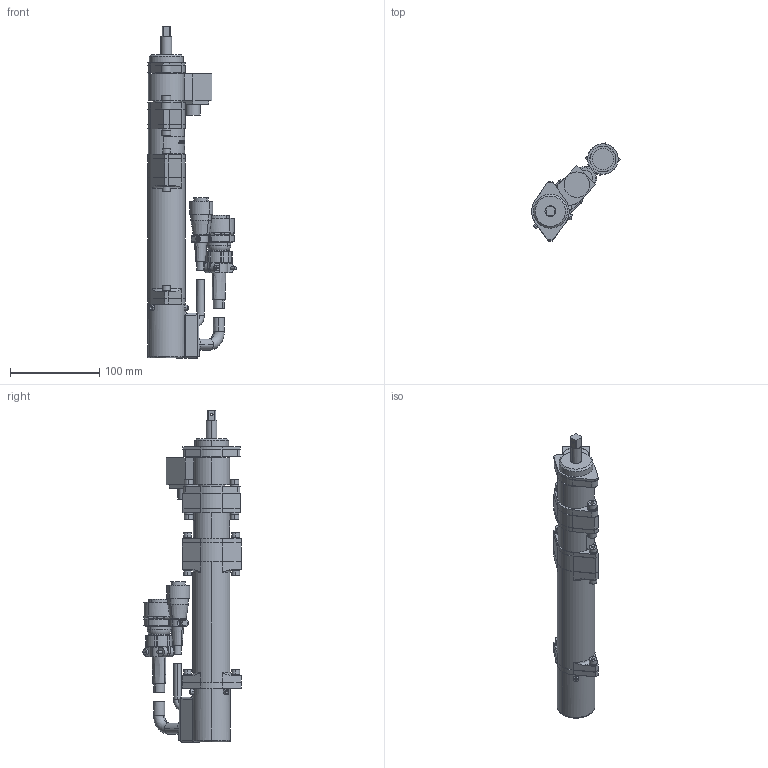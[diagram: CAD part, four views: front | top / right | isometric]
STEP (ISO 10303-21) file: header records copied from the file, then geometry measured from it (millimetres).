
FILE_DESCRIPTION (( 'STEP AP203' ), '1' );
FILE_NAME ('UNR-F015-45NT.STEP', '2006-08-29T03:55:42', ( '' ), ( '' ), 'SwSTEP 2.0', 'SolidWorks 2003240', '' );
FILE_SCHEMA (( 'CONFIG_CONTROL_DESIGN' ));
Length unit declared in the file: millimetre
Products named in the file (5): 2757180_UNR-F015-45NT_蹬怮椔; 2783190_UNR-F015-45NT_蹬怮椔; UNR-F015-45NT; JR16PK7P_UNR-F015-45NT_蹬怮椔; MS3106B1811P_UNR-F015-45NT_蹬怮椔
Assembly tree (4 placements, depth 2):
  UNR-F015-45NT
    2757180_UNR-F015-45NT_蹬怮椔
    MS3106B1811P_UNR-F015-45NT_蹬怮椔
    2783190_UNR-F015-45NT_蹬怮椔
    JR16PK7P_UNR-F015-45NT_蹬怮椔
Bounding box: 99.31 x 109.87 x 371 mm (x, y, z)
Volume: 649674.3 mm3; surface area: 96202.6 mm2
Topology: 4 solids, 4 shells, 1031 faces, 2654 edges, 1732 vertices
Faces by surface type: plane 606, cylinder 311, bspline 69, torus 24, cone 21
Entity records: 40108 total; most frequent: CARTESIAN_POINT 14722, ORIENTED_EDGE 5304, DIRECTION 4980, EDGE_CURVE 2652, VERTEX_POINT 1732, AXIS2_PLACEMENT_3D 1707, VECTOR 1566, LINE 1566
